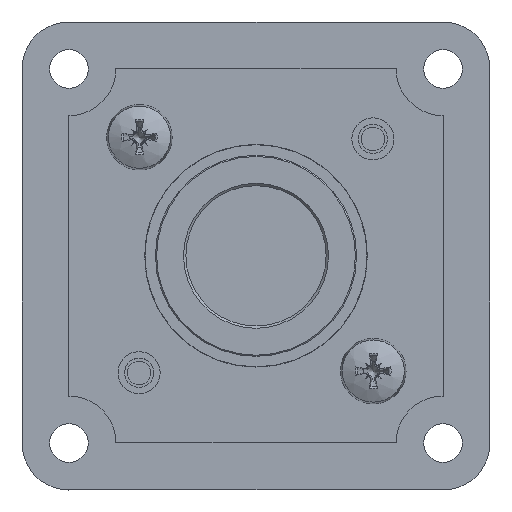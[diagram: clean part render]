
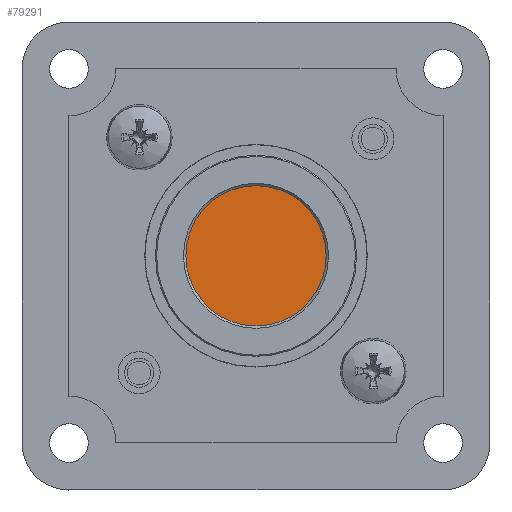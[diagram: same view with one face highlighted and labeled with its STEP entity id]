
A CAD part, top view. The second image highlights one B-rep face of the part: STEP entity #79291.
In plain terms, the highlighted planar face has unit normal (0, 0, 1).
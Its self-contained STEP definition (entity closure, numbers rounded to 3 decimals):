
#78993 = EDGE_CURVE('',#78994,#78994,#78996,.T.);
#78994 = VERTEX_POINT('',#78995);
#78995 = CARTESIAN_POINT('',(6.,0.,2.9));
#78996 = SURFACE_CURVE('',#78997,(#79002,#79036),.PCURVE_S1.);
#78997 = CIRCLE('',#78998,6.);
#78998 = AXIS2_PLACEMENT_3D('',#78999,#79000,#79001);
#78999 = CARTESIAN_POINT('',(0.,0.,2.9));
#79000 = DIRECTION('',(0.,0.,-1.));
#79001 = DIRECTION('',(-1.,0.,0.));
#79002 = PCURVE('',#79003,#79008);
#79003 = CONICAL_SURFACE('',#79004,6.1,0.785);
#79004 = AXIS2_PLACEMENT_3D('',#79005,#79006,#79007);
#79005 = CARTESIAN_POINT('',(0.,0.,3.));
#79006 = DIRECTION('',(0.,0.,1.));
#79007 = DIRECTION('',(-1.,0.,0.));
#79008 = DEFINITIONAL_REPRESENTATION('',(#79009),#79035);
#79009 = B_SPLINE_CURVE_WITH_KNOTS('',3,(#79010,#79011,#79012,#79013,
    #79014,#79015,#79016,#79017,#79018,#79019,#79020,#79021,#79022,
    #79023,#79024,#79025,#79026,#79027,#79028,#79029,#79030,#79031,
    #79032,#79033,#79034),.UNSPECIFIED.,.F.,.F.,(4,1,1,1,1,1,1,1,1,1,1,1
    ,1,1,1,1,1,1,1,1,1,1,4),(3.142,3.427,3.713
    ,3.998,4.284,4.57,4.855,
    5.141,5.426,5.712,5.998,
    6.283,6.569,6.854,7.14,
    7.426,7.711,7.997,8.282,
    8.568,8.854,9.139,9.425),
  .QUASI_UNIFORM_KNOTS.);
#79010 = CARTESIAN_POINT('',(9.425,-0.1));
#79011 = CARTESIAN_POINT('',(9.33,-0.1));
#79012 = CARTESIAN_POINT('',(9.139,-0.1));
#79013 = CARTESIAN_POINT('',(8.854,-0.1));
#79014 = CARTESIAN_POINT('',(8.568,-0.1));
#79015 = CARTESIAN_POINT('',(8.282,-0.1));
#79016 = CARTESIAN_POINT('',(7.997,-0.1));
#79017 = CARTESIAN_POINT('',(7.711,-0.1));
#79018 = CARTESIAN_POINT('',(7.426,-0.1));
#79019 = CARTESIAN_POINT('',(7.14,-0.1));
#79020 = CARTESIAN_POINT('',(6.854,-0.1));
#79021 = CARTESIAN_POINT('',(6.569,-0.1));
#79022 = CARTESIAN_POINT('',(6.283,-0.1));
#79023 = CARTESIAN_POINT('',(5.998,-0.1));
#79024 = CARTESIAN_POINT('',(5.712,-0.1));
#79025 = CARTESIAN_POINT('',(5.426,-0.1));
#79026 = CARTESIAN_POINT('',(5.141,-0.1));
#79027 = CARTESIAN_POINT('',(4.855,-0.1));
#79028 = CARTESIAN_POINT('',(4.57,-0.1));
#79029 = CARTESIAN_POINT('',(4.284,-0.1));
#79030 = CARTESIAN_POINT('',(3.998,-0.1));
#79031 = CARTESIAN_POINT('',(3.713,-0.1));
#79032 = CARTESIAN_POINT('',(3.427,-0.1));
#79033 = CARTESIAN_POINT('',(3.237,-0.1));
#79034 = CARTESIAN_POINT('',(3.142,-0.1));
#79035 = ( GEOMETRIC_REPRESENTATION_CONTEXT(2) 
PARAMETRIC_REPRESENTATION_CONTEXT() REPRESENTATION_CONTEXT('2D SPACE',''
  ) );
#79036 = PCURVE('',#79037,#79042);
#79037 = PLANE('',#79038);
#79038 = AXIS2_PLACEMENT_3D('',#79039,#79040,#79041);
#79039 = CARTESIAN_POINT('',(0.,0.,
    2.9));
#79040 = DIRECTION('',(0.,0.,1.));
#79041 = DIRECTION('',(1.,0.,0.));
#79042 = DEFINITIONAL_REPRESENTATION('',(#79043),#79051);
#79043 = ( BOUNDED_CURVE() B_SPLINE_CURVE(2,(#79044,#79045,#79046,#79047
    ,#79048,#79049,#79050),.UNSPECIFIED.,.F.,.F.) 
B_SPLINE_CURVE_WITH_KNOTS((1,2,2,2,2,1),(-2.094,0.,
    2.094,4.189,6.283,8.378),
.UNSPECIFIED.) CURVE() GEOMETRIC_REPRESENTATION_ITEM() 
RATIONAL_B_SPLINE_CURVE((1.,0.5,1.,0.5,1.,0.5,1.)) REPRESENTATION_ITEM(
  '') );
#79044 = CARTESIAN_POINT('',(-6.,0.));
#79045 = CARTESIAN_POINT('',(-6.,10.392));
#79046 = CARTESIAN_POINT('',(3.,5.196));
#79047 = CARTESIAN_POINT('',(12.,0.));
#79048 = CARTESIAN_POINT('',(3.,-5.196));
#79049 = CARTESIAN_POINT('',(-6.,-10.392));
#79050 = CARTESIAN_POINT('',(-6.,0.));
#79051 = ( GEOMETRIC_REPRESENTATION_CONTEXT(2) 
PARAMETRIC_REPRESENTATION_CONTEXT() REPRESENTATION_CONTEXT('2D SPACE',''
  ) );
#79291 = ADVANCED_FACE('',(#79292),#79037,.T.);
#79292 = FACE_BOUND('',#79293,.T.);
#79293 = EDGE_LOOP('',(#79294));
#79294 = ORIENTED_EDGE('',*,*,#78993,.F.);
